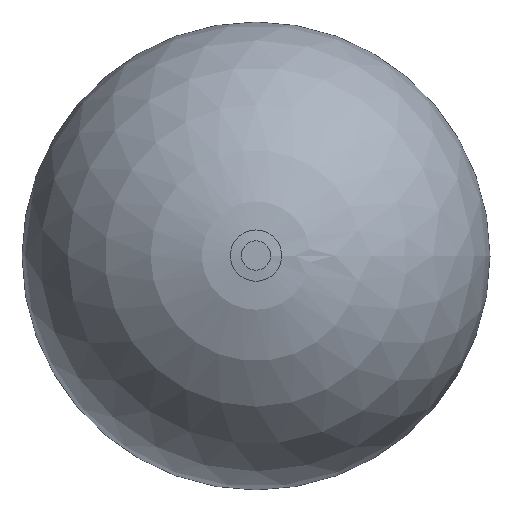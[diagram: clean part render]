
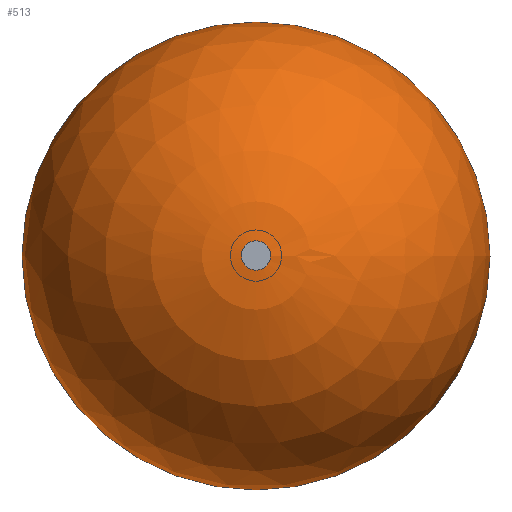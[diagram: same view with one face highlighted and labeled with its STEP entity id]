
A CAD part, top view. The second image highlights one B-rep face of the part: STEP entity #513.
In plain terms, the highlighted spherical face has radius 160 mm.
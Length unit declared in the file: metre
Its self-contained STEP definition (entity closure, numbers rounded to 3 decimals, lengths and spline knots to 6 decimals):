
#513 = ADVANCED_FACE( '', ( #557 ), #558, .T. );
#557 = FACE_OUTER_BOUND( '', #1034, .T. );
#558 = SPHERICAL_SURFACE( '', #1035, 0.16 );
#1034 = EDGE_LOOP( '', ( #1915 ) );
#1035 = AXIS2_PLACEMENT_3D( '', #1916, #1917, #1918 );
#1915 = ORIENTED_EDGE( '', *, *, #2058, .F. );
#1916 = CARTESIAN_POINT( '', ( 0., 0., 0.33 ) );
#1917 = DIRECTION( '', ( 0., 0., -1. ) );
#1918 = DIRECTION( '', ( 1., 0., 0. ) );
#2058 = EDGE_CURVE( '', #2098, #2098, #2099, .T. );
#2098 = VERTEX_POINT( '', #2362 );
#2099 = CIRCLE( '', #2363, 0.159687 );
#2362 = CARTESIAN_POINT( '', ( -0.159687, 0., 0.32 ) );
#2363 = AXIS2_PLACEMENT_3D( '', #2822, #2823, #2824 );
#2822 = CARTESIAN_POINT( '', ( 0., 0., 0.32 ) );
#2823 = DIRECTION( '', ( 0., 0., -1. ) );
#2824 = DIRECTION( '', ( -1., 0., 0. ) );
